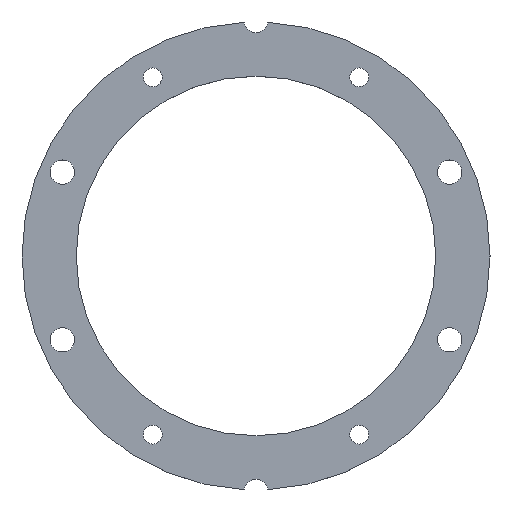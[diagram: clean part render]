
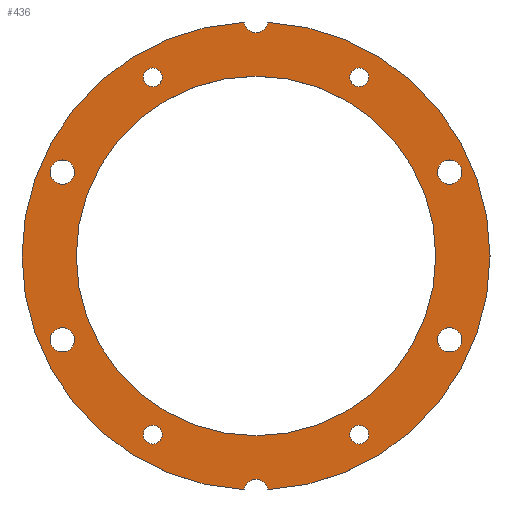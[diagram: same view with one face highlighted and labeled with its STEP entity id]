
A CAD part, top view. The second image highlights one B-rep face of the part: STEP entity #436.
In plain terms, the highlighted planar face has unit normal (0, 0, 1).
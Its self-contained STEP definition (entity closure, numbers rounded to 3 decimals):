
#129=PLANE('',#476);
#144=VERTEX_POINT('',#541);
#146=VERTEX_POINT('',#547);
#147=VERTEX_POINT('',#550);
#148=VERTEX_POINT('',#552);
#149=VERTEX_POINT('',#554);
#150=VERTEX_POINT('',#555);
#151=VERTEX_POINT('',#557);
#152=VERTEX_POINT('',#559);
#153=VERTEX_POINT('',#561);
#154=VERTEX_POINT('',#563);
#155=VERTEX_POINT('',#565);
#156=VERTEX_POINT('',#567);
#157=VERTEX_POINT('',#569);
#178=CIRCLE('',#471,1.7);
#180=CIRCLE('',#475,1.7);
#181=CIRCLE('',#477,1.7);
#182=CIRCLE('',#478,1.7);
#183=CIRCLE('',#479,2.15);
#184=CIRCLE('',#480,42.3);
#185=CIRCLE('',#481,2.15);
#186=CIRCLE('',#482,32.5);
#187=CIRCLE('',#483,2.2);
#188=CIRCLE('',#484,2.2);
#189=CIRCLE('',#485,2.2);
#190=CIRCLE('',#486,2.2);
#211=EDGE_CURVE('',#144,#144,#178,.T.);
#213=EDGE_CURVE('',#146,#146,#180,.T.);
#214=EDGE_CURVE('',#147,#147,#181,.T.);
#215=EDGE_CURVE('',#148,#148,#182,.T.);
#216=EDGE_CURVE('',#149,#150,#183,.T.);
#217=EDGE_CURVE('',#151,#150,#184,.T.);
#218=EDGE_CURVE('',#151,#152,#185,.T.);
#219=EDGE_CURVE('',#149,#152,#184,.T.);
#220=EDGE_CURVE('',#153,#153,#186,.T.);
#221=EDGE_CURVE('',#154,#154,#187,.T.);
#222=EDGE_CURVE('',#155,#155,#188,.T.);
#223=EDGE_CURVE('',#156,#156,#189,.T.);
#224=EDGE_CURVE('',#157,#157,#190,.T.);
#260=ORIENTED_EDGE('',*,*,#214,.T.);
#261=ORIENTED_EDGE('',*,*,#215,.T.);
#262=ORIENTED_EDGE('',*,*,#216,.T.);
#263=ORIENTED_EDGE('',*,*,#217,.F.);
#264=ORIENTED_EDGE('',*,*,#218,.T.);
#265=ORIENTED_EDGE('',*,*,#219,.F.);
#266=ORIENTED_EDGE('',*,*,#220,.F.);
#267=ORIENTED_EDGE('',*,*,#221,.T.);
#268=ORIENTED_EDGE('',*,*,#222,.T.);
#269=ORIENTED_EDGE('',*,*,#223,.T.);
#270=ORIENTED_EDGE('',*,*,#224,.T.);
#271=ORIENTED_EDGE('',*,*,#211,.T.);
#272=ORIENTED_EDGE('',*,*,#213,.T.);
#341=EDGE_LOOP('',(#260));
#342=EDGE_LOOP('',(#261));
#343=EDGE_LOOP('',(#262,#263,#264,#265));
#344=EDGE_LOOP('',(#266));
#345=EDGE_LOOP('',(#267));
#346=EDGE_LOOP('',(#268));
#347=EDGE_LOOP('',(#269));
#348=EDGE_LOOP('',(#270));
#349=EDGE_LOOP('',(#271));
#350=EDGE_LOOP('',(#272));
#395=FACE_BOUND('',#341,.T.);
#396=FACE_BOUND('',#342,.T.);
#397=FACE_BOUND('',#343,.T.);
#398=FACE_BOUND('',#344,.T.);
#399=FACE_BOUND('',#345,.T.);
#400=FACE_BOUND('',#346,.T.);
#401=FACE_BOUND('',#347,.T.);
#402=FACE_BOUND('',#348,.T.);
#403=FACE_BOUND('',#349,.T.);
#404=FACE_BOUND('',#350,.T.);
#436=ADVANCED_FACE('',(#395,#396,#397,#398,#399,#400,#401,#402,#403,#404),
#129,.T.);
#471=AXIS2_PLACEMENT_3D('',#540,#651,#652);
#475=AXIS2_PLACEMENT_3D('',#546,#659,#660);
#476=AXIS2_PLACEMENT_3D('',#548,#661,$);
#477=AXIS2_PLACEMENT_3D('',#549,#662,#663);
#478=AXIS2_PLACEMENT_3D('',#551,#664,#665);
#479=AXIS2_PLACEMENT_3D('',#553,#666,#667);
#480=AXIS2_PLACEMENT_3D('',#556,#668,#669);
#481=AXIS2_PLACEMENT_3D('',#558,#670,#671);
#482=AXIS2_PLACEMENT_3D('',#560,#672,#673);
#483=AXIS2_PLACEMENT_3D('',#562,#674,#675);
#484=AXIS2_PLACEMENT_3D('',#564,#676,#677);
#485=AXIS2_PLACEMENT_3D('',#566,#678,#679);
#486=AXIS2_PLACEMENT_3D('',#568,#680,#681);
#540=CARTESIAN_POINT('',(-18.65,-32.303,3.));
#541=CARTESIAN_POINT('',(-16.95,-32.303,3.));
#546=CARTESIAN_POINT('',(18.65,-32.303,3.));
#547=CARTESIAN_POINT('',(20.35,-32.303,3.));
#548=CARTESIAN_POINT('',(0.,0.,3.));
#549=CARTESIAN_POINT('',(18.65,32.303,3.));
#550=CARTESIAN_POINT('',(20.35,32.303,3.));
#551=CARTESIAN_POINT('',(-18.65,32.303,3.));
#552=CARTESIAN_POINT('',(-16.95,32.303,3.));
#553=CARTESIAN_POINT('',(0.,-42.5,3.));
#554=CARTESIAN_POINT('',(-2.135,-42.246,3.));
#555=CARTESIAN_POINT('',(2.135,-42.246,3.));
#556=CARTESIAN_POINT('',(0.,0.,3.));
#557=CARTESIAN_POINT('',(2.135,42.246,3.));
#558=CARTESIAN_POINT('',(0.,42.5,3.));
#559=CARTESIAN_POINT('',(-2.135,42.246,3.));
#560=CARTESIAN_POINT('',(0.,0.,3.));
#561=CARTESIAN_POINT('',(32.5,0.,3.));
#562=CARTESIAN_POINT('',(35.,15.155,3.));
#563=CARTESIAN_POINT('',(32.8,15.155,3.));
#564=CARTESIAN_POINT('',(35.,-15.155,3.));
#565=CARTESIAN_POINT('',(32.8,-15.155,3.));
#566=CARTESIAN_POINT('',(-35.,15.155,3.));
#567=CARTESIAN_POINT('',(-32.8,15.155,3.));
#568=CARTESIAN_POINT('',(-35.,-15.155,3.));
#569=CARTESIAN_POINT('',(-32.8,-15.155,3.));
#651=DIRECTION('',(0.,0.,-1.));
#652=DIRECTION('',(1.7,0.,0.));
#659=DIRECTION('',(0.,0.,-1.));
#660=DIRECTION('',(1.7,0.,0.));
#661=DIRECTION('',(0.,0.,1.));
#662=DIRECTION('',(0.,0.,-1.));
#663=DIRECTION('',(1.7,0.,0.));
#664=DIRECTION('',(0.,0.,-1.));
#665=DIRECTION('',(1.7,0.,0.));
#666=DIRECTION('',(0.,0.,-1.));
#667=DIRECTION('',(-2.15,0.,0.));
#668=DIRECTION('',(0.,0.,-1.));
#669=DIRECTION('',(42.3,0.,0.));
#670=DIRECTION('',(0.,0.,-1.));
#671=DIRECTION('',(2.15,0.,0.));
#672=DIRECTION('',(0.,0.,1.));
#673=DIRECTION('',(32.5,0.,0.));
#674=DIRECTION('',(0.,0.,-1.));
#675=DIRECTION('',(2.2,0.,0.));
#676=DIRECTION('',(0.,0.,-1.));
#677=DIRECTION('',(2.2,0.,0.));
#678=DIRECTION('',(0.,0.,-1.));
#679=DIRECTION('',(-2.2,0.,0.));
#680=DIRECTION('',(0.,0.,-1.));
#681=DIRECTION('',(-2.2,0.,0.));
